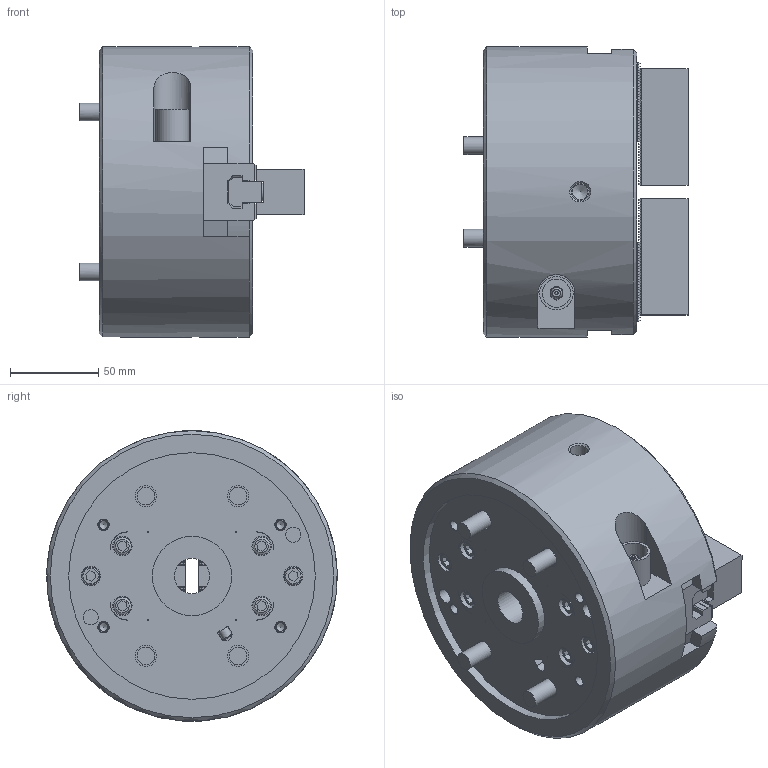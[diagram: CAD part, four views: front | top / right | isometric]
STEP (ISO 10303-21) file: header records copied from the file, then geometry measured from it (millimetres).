
FILE_DESCRIPTION (( 'STEP AP214' ), '1' );
FILE_NAME ('BLT206_OC.STEP', '2020-01-16T01:58:38', ( '' ), ( '' ), 'SwSTEP 2.0', 'SolidWorks 2017', '' );
FILE_SCHEMA (( 'AUTOMOTIVE_DESIGN' ));
Length unit declared in the file: millimetre
Products named in the file (14): 61P321203-3_SOFTJAW; 61P447493-0_T_NUT; B傾僫僣僉 M10亊250_~25; BLT206_Unity^BLT206_蹬怮椔; BLT206_Unity^BLT206; B傾僫僣僉 M10亊250_~25_棉太倌TI佱UA; 61P447493-0_T_NUT_蹬怮椔; 61P321203-3_SOFTJAW_蹬怮椔; BLT206_OC
Assembly tree (9 placements, depth 2):
  61P321203-3_SOFTJAW
  61P447493-0_T_NUT
  B傾僫僣僉 M10亊250_~25
  B傾僫僣僉 M10亊250_~25
  61P321203-3_SOFTJAW
Bounding box: 127.2 x 165 x 165 mm (x, y, z)
Volume: 1765308.8 mm3; surface area: 169587.7 mm2
Topology: 9 solids, 30 shells, 1727 faces, 4663 edges, 3076 vertices
Faces by surface type: plane 1499, cylinder 151, cone 66, torus 6, sphere 5
Full cylindrical faces by diameter (mm): 1.9 x2, 5 x4, 6 x9, 6.6 x4, 8.6 x2, 8.8 x2, 9 x4, 10 x24, 11 x10, 12 x4, 16 x10, 17 x8, 19 x2, 20 x1, 28 x1, 31 x1, 38.5 x1, 45 x1, 140 x1, 165 x1
Entity records: 41988 total; most frequent: CARTESIAN_POINT 8223, ORIENTED_EDGE 7006, DIRECTION 6537, EDGE_CURVE 3503, VECTOR 2869, LINE 2869, VERTEX_POINT 2368, AXIS2_PLACEMENT_3D 1834
